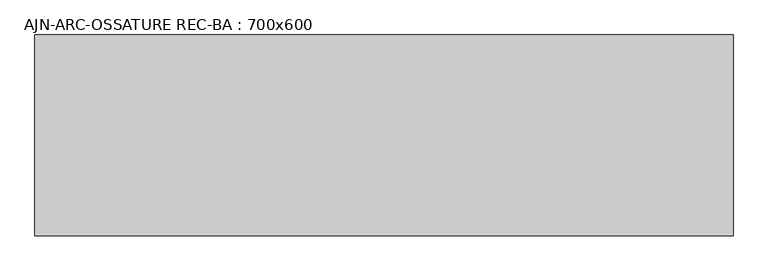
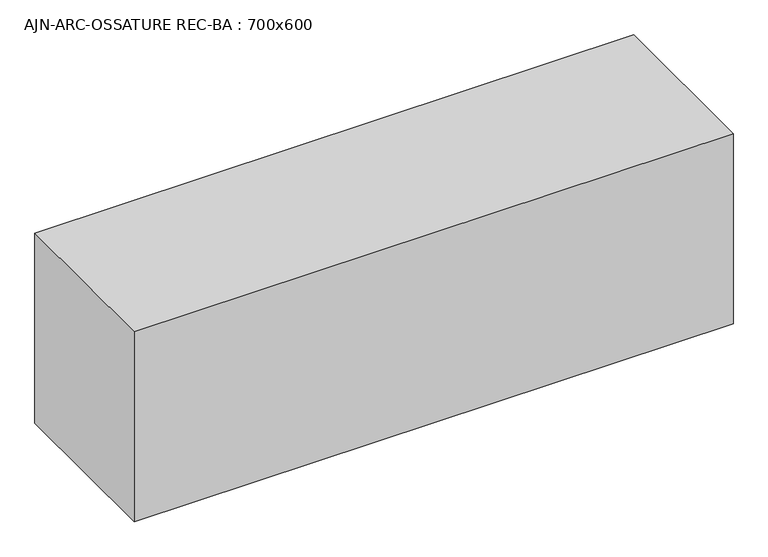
"""IFC4 building model written with IfcOpenShell, lengths in millimetres: beam geometry, AJN-ARC-OSSATURE REC-BA : 700x600."""

import ifcopenshell
import ifcopenshell.guid

model = None  # the IFC model being written
_history = None  # IfcOwnerHistory: only IFC2X3 demands one
_inside = {}  # id of a spatial element -> (the spatial element, [elements in it])
_under = {}  # id of a project, library or spatial element -> (it, [spatial elements below it])
_declared = {}  # id of a project -> (the project, [libraries it declares])
_typed = {}  # id of a type object -> (the type object, [elements of that type])
_made_of = {}  # id of a material, layer set ... -> (it, [elements and type objects made of it])


def new_model(schema):
    """Start an empty IFC model of exactly this schema.

    Asked for "IFC4X3", IfcOpenShell would pick the latest addendum, in which some entities
    have other attributes; the version numbers below select the first issue.
    IFC2X3 requires an IfcOwnerHistory on every rooted entity: one is made here for all.
    """
    global model, _history
    if schema == "IFC4X3":
        model = ifcopenshell.file(schema_version=(4, 3, 0, 0))
    else:
        model = ifcopenshell.file(schema=schema)
    _inside.clear()
    _under.clear()
    _declared.clear()
    _typed.clear()
    _made_of.clear()
    _history = None
    if model.schema == "IFC2X3":
        org = make("IfcOrganization", Name="unknown")
        user = make(
            "IfcPersonAndOrganization",
            ThePerson=make("IfcPerson", FamilyName="unknown"),
            TheOrganization=org,
        )
        app = make(
            "IfcApplication",
            ApplicationDeveloper=org,
            Version="unknown",
            ApplicationFullName="unknown",
            ApplicationIdentifier="unknown",
        )
        _history = make(
            "IfcOwnerHistory",
            OwningUser=user,
            OwningApplication=app,
            ChangeAction="ADDED",
            CreationDate=0,
        )
    return model


def make(cls, **values):
    """One entity of the class cls with the attributes given. An attribute that is None is left unset."""
    return model.create_entity(
        cls, **{name: value for name, value in values.items() if value is not None}
    )


def rooted(cls, **values):
    """An entity with a GlobalId (a new one), such as an element, a storey or a relation."""
    return make(cls, GlobalId=ifcopenshell.guid.new(), OwnerHistory=_history, **values)


def si_unit(unit_type, name, prefix=None):
    """IfcSIUnit, for example si_unit("LENGTHUNIT", "METRE", prefix="MILLI")."""
    return make("IfcSIUnit", UnitType=unit_type, Prefix=prefix, Name=name)


def assignment(units):
    """IfcUnitAssignment: the units of a project."""
    return None if units is None else make("IfcUnitAssignment", Units=units)


def point(xyz):
    """IfcCartesianPoint."""
    return None if xyz is None else make("IfcCartesianPoint", Coordinates=xyz)


def direction(xyz):
    """IfcDirection."""
    return None if xyz is None else make("IfcDirection", DirectionRatios=xyz)


def frame(location, z_axis=None, x_axis=None):
    """IfcAxis2Placement3D, a coordinate frame: its origin and axes. An axis left out is left unset."""
    return make(
        "IfcAxis2Placement3D",
        Location=point(location),
        Axis=direction(z_axis),
        RefDirection=direction(x_axis),
    )


def origin():
    """The frame at (0, 0, 0) with its axes left unset."""
    return frame((0.0, 0.0, 0.0))


def place(relative_to, where):
    """IfcLocalPlacement: puts the frame where relative to a parent placement (None: the world)."""
    return make(
        "IfcLocalPlacement", PlacementRelTo=relative_to, RelativePlacement=where
    )


def context(
    kind, dimensions, precision=None, world=None, true_north=None, identifier=None
):
    """IfcGeometricRepresentationContext, for example the 3D "Model" context."""
    return make(
        "IfcGeometricRepresentationContext",
        ContextIdentifier=identifier,
        ContextType=kind,
        CoordinateSpaceDimension=dimensions,
        Precision=precision,
        WorldCoordinateSystem=world,
        TrueNorth=true_north,
    )


def project(units=None, contexts=None):
    """IfcProject with its units and contexts."""
    return rooted(
        "IfcProject",
        Name="project",
        RepresentationContexts=contexts,
        UnitsInContext=assignment(units),
    )


def spatial(cls, under=None, at=None, **own):
    """A site, building, storey or space (cls), placed at a placement, below another one or the project."""
    s = rooted(cls, ObjectPlacement=at, **own)
    if under is not None:
        _under.setdefault(under.id(), (under, []))[1].append(s)
    return s


def polyline(points):
    """IfcPolyline through the points."""
    return make("IfcPolyline", Points=[point(p) for p in points])


def outline(outer, holes=None, kind="AREA"):
    """IfcArbitraryClosedProfileDef: a profile drawn as a closed curve; with holes, ...WithVoids."""
    if holes is None:
        return make("IfcArbitraryClosedProfileDef", ProfileType=kind, OuterCurve=outer)
    return make(
        "IfcArbitraryProfileDefWithVoids",
        ProfileType=kind,
        OuterCurve=outer,
        InnerCurves=holes,
    )


def extrude(swept, where, along, depth):
    """IfcExtrudedAreaSolid: the profile swept, set in the frame where, extruded along a direction by depth."""
    return make(
        "IfcExtrudedAreaSolid",
        SweptArea=swept,
        Position=where,
        ExtrudedDirection=direction(along),
        Depth=depth,
    )


def shape(context_of_items, identifier, shape_type, items):
    """IfcShapeRepresentation: the items that make up one representation, for example the "Body"."""
    return make(
        "IfcShapeRepresentation",
        ContextOfItems=context_of_items,
        RepresentationIdentifier=identifier,
        RepresentationType=shape_type,
        Items=items,
    )


def source(mapping_origin, context_of_items, identifier, shape_type, items):
    """IfcRepresentationMap: a shape defined once, which mapped items show again and again."""
    return make(
        "IfcRepresentationMap",
        MappingOrigin=mapping_origin,
        MappedRepresentation=shape(context_of_items, identifier, shape_type, items),
    )


def transform(
    local_origin,
    x_axis=None,
    y_axis=None,
    z_axis=None,
    scale=None,
    scale2=None,
    scale3=None,
    uniform=True,
):
    """IfcCartesianTransformationOperator3D, or its non-uniform kind. x_axis, y_axis, z_axis: its Axis1, 2, 3."""
    if uniform:
        return make(
            "IfcCartesianTransformationOperator3D",
            Axis1=direction(x_axis),
            Axis2=direction(y_axis),
            LocalOrigin=point(local_origin),
            Scale=scale,
            Axis3=direction(z_axis),
        )
    return make(
        "IfcCartesianTransformationOperator3DnonUniform",
        Axis1=direction(x_axis),
        Axis2=direction(y_axis),
        LocalOrigin=point(local_origin),
        Scale=scale,
        Axis3=direction(z_axis),
        Scale2=scale2,
        Scale3=scale3,
    )


def mapped(mapping_source, mapping_target):
    """IfcMappedItem: shows the shape of a source again, moved by a transform."""
    return make(
        "IfcMappedItem", MappingSource=mapping_source, MappingTarget=mapping_target
    )


def made_of(thing, what):
    """Note that an element or type object is made of a material, layer set ...; save() writes the relation."""
    if what is not None:
        _made_of.setdefault(what.id(), (what, []))[1].append(thing)
    return thing


def element(
    cls,
    number,
    at=None,
    inside=None,
    cuts=None,
    type_object=None,
    material=None,
    context=None,
    identifier="Body",
    shape_type=None,
    held_by="IfcProductDefinitionShape",
    body=None,
    shapes=None,
    **own,
):
    """One element of the class cls, such as IfcWall. Its Tag is "e" and its number.

    at: its placement. inside: the storey or other place that contains it. cuts: it is an
    opening in that element (IfcRelVoidsElement). A single representation is given by context,
    identifier, shape_type and body (its items); several are given by shapes. held_by: the class
    of the entity that holds the representations. save() writes the other relations.
    """
    e = rooted(cls, Tag="e%d" % number, ObjectPlacement=at, **own)
    if body is not None:
        shapes = [shape(context, identifier, shape_type, body)]
    if shapes is not None:
        e.Representation = make(held_by, Representations=shapes)
    if inside is not None:
        _inside.setdefault(inside.id(), (inside, []))[1].append(e)
    if cuts is not None:
        rooted(
            "IfcRelVoidsElement", RelatingBuildingElement=cuts, RelatedOpeningElement=e
        )
    if type_object is not None:
        _typed.setdefault(type_object.id(), (type_object, []))[1].append(e)
    return made_of(e, material)


def aggregate(whole, parts):
    """IfcRelAggregates: a whole, such as a stair, and the parts it consists of."""
    return rooted("IfcRelAggregates", RelatingObject=whole, RelatedObjects=parts)


def save(model, path):
    """Write the relations noted so far, then the file.

    IfcRelAggregates (storeys below a building ...), IfcRelContainedInSpatialStructure (elements
    in a storey), IfcRelDefinesByType, IfcRelAssociatesMaterial and IfcRelDeclares: one each for
    every whole, place, type object, material and project.
    """
    for whole, parts in _under.values():
        aggregate(whole, parts)
    for where, things in _inside.values():
        rooted(
            "IfcRelContainedInSpatialStructure",
            RelatedElements=things,
            RelatingStructure=where,
        )
    for kind, things in _typed.values():
        rooted("IfcRelDefinesByType", RelatedObjects=things, RelatingType=kind)
    for what, things in _made_of.values():
        rooted("IfcRelAssociatesMaterial", RelatedObjects=things, RelatingMaterial=what)
    for by, libraries in _declared.values():
        rooted("IfcRelDeclares", RelatingContext=by, RelatedDefinitions=libraries)
    model.write(path)


def ajn_arc_ossature_rec_ba_700x600_e869caa8(model_context):
    return source(origin(), model_context, "Body", "SweptSolid", [
        extrude(outline(polyline([(1350.0, 300.0), (1350.0, -300.0), (-737.3, -300.0), (-737.3, 300.0), (1350.0, 300.0)])), frame((0.0, 0.0, -350.0), z_axis=(0.0, 0.0, 1.0), x_axis=(1.0, 0.0, 0.0)), (0.0, 0.0, 1.0), 700.0),
    ])


if __name__ == "__main__":
    model = new_model("IFC4")
    model_context = context("Model", 3, world=origin())
    ifc_project = project(units=[si_unit("LENGTHUNIT", "METRE", prefix="MILLI")], contexts=[model_context])
    site = spatial("IfcSite", under=ifc_project)
    building = spatial("IfcBuilding", under=site)
    placement = place(None, origin())
    ajn_arc_ossature_rec_ba_700x600_shape = ajn_arc_ossature_rec_ba_700x600_e869caa8(model_context)
    element("IfcBeam", 1, ObjectType="AJN-ARC-OSSATURE REC-BA : 700x600", at=placement, inside=building, context=model_context, shape_type="MappedRepresentation", body=[
        mapped(ajn_arc_ossature_rec_ba_700x600_shape, transform((0.0, 0.0, 0.0), x_axis=(1.0, 0.0, 0.0), y_axis=(0.0, 1.0, 0.0), z_axis=(0.0, 0.0, 1.0))),
    ])
    save(model, "model.ifc")
